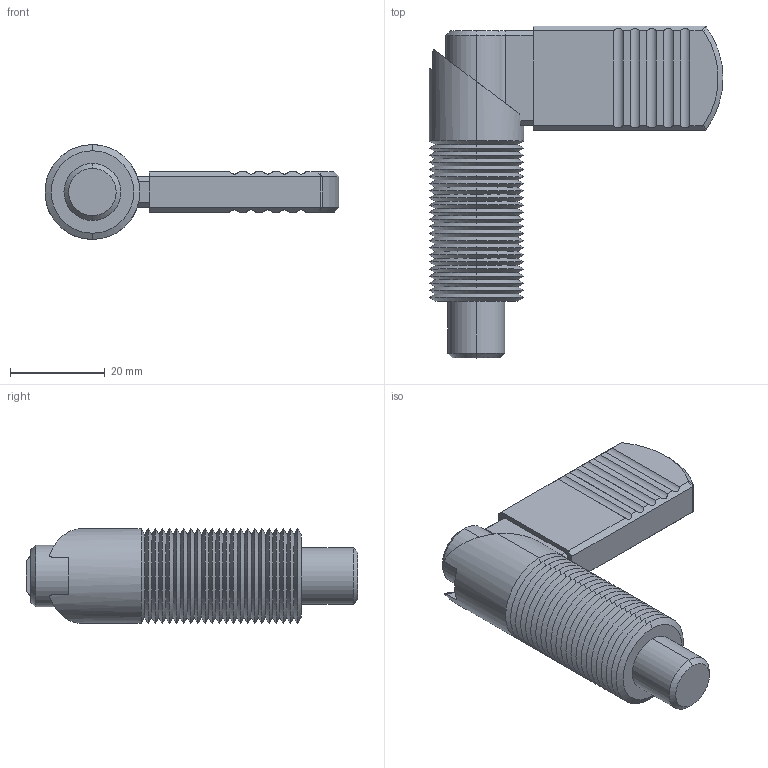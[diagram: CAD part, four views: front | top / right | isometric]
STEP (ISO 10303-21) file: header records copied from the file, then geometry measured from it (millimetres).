
FILE_DESCRIPTION (( 'STEP AP203' ), '1' );
FILE_NAME ('32501.W0372.step', '2016-02-10T17:23:41', ( 'User' ), ( '' ), 'SwSTEP 2.0', 'SolidWorks 2009', '' );
FILE_SCHEMA (( 'CONFIG_CONTROL_DESIGN' ));
Length unit declared in the file: millimetre
Products named in the file (4): Part2_32501.W0372; Part1_32501.W0372; Part3_32501.W0372; 32501.W0372
Assembly tree (3 placements, depth 2):
  32501.W0372
    Part2_32501.W0372
    Part1_32501.W0372
    Part3_32501.W0372
Bounding box: 62 x 70 x 20 mm (x, y, z)
Volume: 18675.8 mm3; surface area: 16075.4 mm2
Topology: 3 solids, 3 shells, 220 faces, 513 edges, 303 vertices
Faces by surface type: cone 107, cylinder 55, plane 54, bspline 4
Entity records: 6702 total; most frequent: CARTESIAN_POINT 1446, ORIENTED_EDGE 1026, DIRECTION 1016, EDGE_CURVE 513, AXIS2_PLACEMENT_3D 371, VERTEX_POINT 303, VECTOR 274, LINE 274
